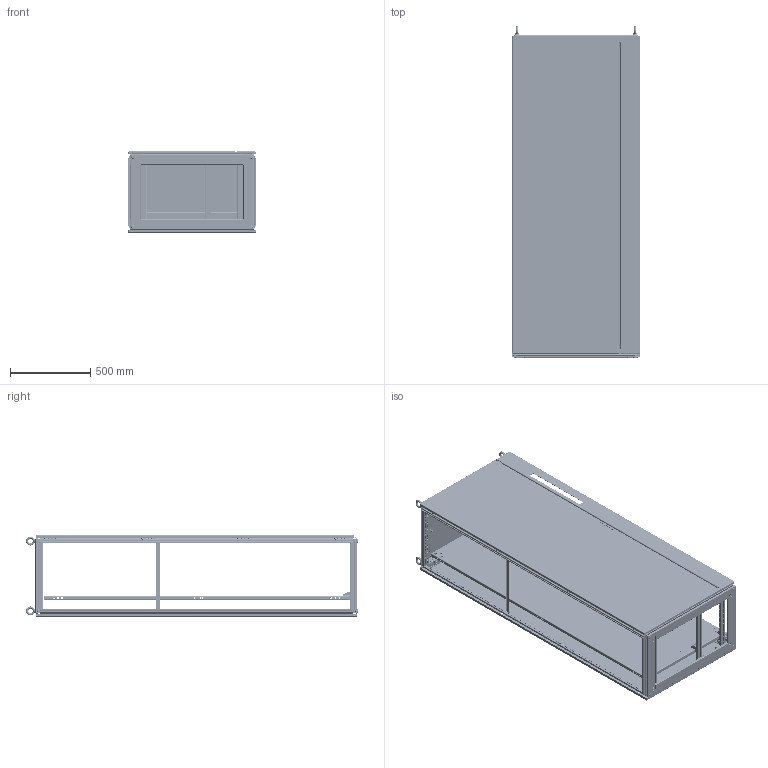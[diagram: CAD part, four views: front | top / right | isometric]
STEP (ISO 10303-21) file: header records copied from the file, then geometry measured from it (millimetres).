
FILE_DESCRIPTION((''),'2;1');
FILE_NAME('9951142_ASM','2015-03-11T',('us01724'),(''),'PRO/ENGINEER BY PARAMETRIC TECHNOLOGY CORPORATION, 2014310','PRO/ENGINEER BY PARAMETRIC TECHNOLOGY CORPORATION, 2014310','');
FILE_SCHEMA(('CONFIG_CONTROL_DESIGN'));
Products named in the file (56): D0242692_AF4; D0242692_AF5; D0242690_AF7; D0242690_AF6; D0242692; D0242690; D0242687; D0241135; D0275620_ASM; D0241538; D0241473; D0241151; D0208516; D0241463_TS_MPL_SLIDE_BLOCK_L; D0241464_TS_MPL_SLIDE_BLOCK_R; D0241469_TS_MPL_RETAINER_RIGHT; D0241468_TS_MPL_RETAINER_LEFT; D0271001; 211119; D0274958; D0043241; TS_GASKET_DOOR_FMDC_2000; D0242763_TS8_GROUND_STUD_M8; D0242763_TS8_CAP_M8; D0242763_ASM; D0207315; D0242679; D0041315; D0223916; D0043241_ASM; D0043308; TS_GASKET_DR_FMDC_LEFT_0720; D0233320; D0233331; D0214486; D0272085_ASM; D0241492; D0241496; D0042690; D0030693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
Assembly tree (136 placements, depth 4):
  9951142_ASM
    D0275620_ASM
      D0242692_AF4
      D0242692_AF5
      D0242690_AF7
      D0242690_AF6
      D0242692  x2
      D0242690  x2
      D0242687  x4
      D0241135  x8
    D0241538  x2
    D0241473  x2
    D0241151  x3
    D0208516  x2
    D0241463_TS_MPL_SLIDE_BLOCK_L
    D0241464_TS_MPL_SLIDE_BLOCK_R
    D0241469_TS_MPL_RETAINER_RIGHT
    D0241468_TS_MPL_RETAINER_LEFT
    D0271001
    211119
    D0274958  x8
    D0043241_ASM
      D0043241
      TS_GASKET_DOOR_FMDC_2000
      D0242763_ASM  x2
        D0242763_TS8_GROUND_STUD_M8
        D0242763_TS8_CAP_M8
      D0207315  x4
      D0242679  x3
      D0041315  x4
      D0223916
    D0043308_ASM
      D0043308
      TS_GASKET_DR_FMDC_LEFT_0720
      D0242763_ASM  x2
        D0242763_TS8_GROUND_STUD_M8
        D0242763_TS8_CAP_M8
      D0242679  x6
      D0207315  x4
      D0223916  x8
      D0272085_ASM
        D0233320  x2
        D0233331  x2
        D0214486  x4
      TS_LOCKBAR_ASSY_2000_DBL_ASM
        D0241492
        D0241496  x2
        D0042690  x2
        D0030693  x4
    D0275681_ASM
      D0275681
      TS_GASKET_ROOF_0805
      D0242763_ASM  x2
        D0242763_TS8_GROUND_STUD_M8
        D0242763_TS8_CAP_M8
    D0275871  x4
    D0275666_ASM
      TS_BASE_FRAME_MEM_500_NO_NOTCH  x2
      TS_BASE_FRAME_CORNER  x4
      TS_BASE_FRAME_MEM_800_NO_NOTCH  x2
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Bounding box: 797 x 2064.45 x 505.62 mm (x, y, z)
Volume: 16656916.8 mm3; surface area: 17116460.7 mm2
Topology: 150 solids, 158 shells, 20720 faces, 58209 edges, 37552 vertices
Faces by surface type: plane 12050, cylinder 7488, cone 376, torus 324, bspline 228, sphere 158, extrusion 96
Entity records: 287777 total; most frequent: CARTESIAN_POINT 54904, ORIENTED_EDGE 47642, DIRECTION 47524, EDGE_CURVE 23825, VECTOR 16488, LINE 16464, AXIS2_PLACEMENT_3D 15518, VERTEX_POINT 15436
